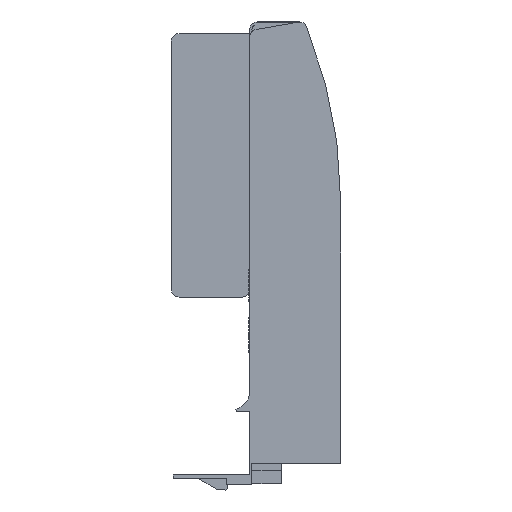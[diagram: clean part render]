
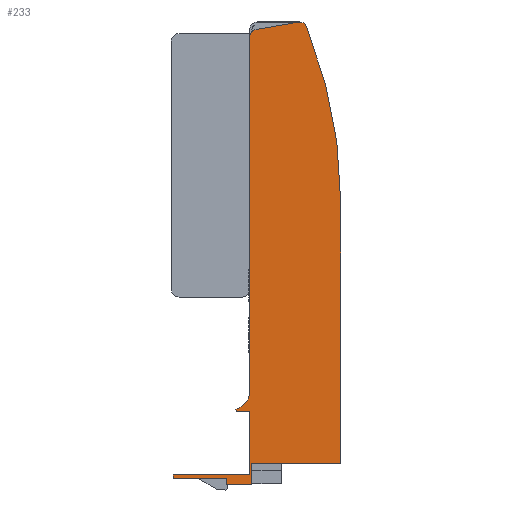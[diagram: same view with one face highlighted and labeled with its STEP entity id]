
A CAD part, front view. The second image highlights one B-rep face of the part: STEP entity #233.
In plain terms, the highlighted planar face has unit normal (0, -1, 0).
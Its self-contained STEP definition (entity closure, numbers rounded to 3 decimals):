
#64 = CARTESIAN_POINT ( 'NONE',  ( -20.9, 0., -13.5 ) ) ;
#65 = CARTESIAN_POINT ( 'NONE',  ( 2.3, 0., 55.168 ) ) ;
#69 = CARTESIAN_POINT ( 'NONE',  ( -41.499, 0., -17.528 ) ) ;
#76 = CARTESIAN_POINT ( 'NONE',  ( -6.648, 0., 100.756 ) ) ;
#80 = CARTESIAN_POINT ( 'NONE',  ( -25., 0., 0. ) ) ;
#112 = CARTESIAN_POINT ( 'NONE',  ( -25.161, 0., 0.578 ) ) ;
#115 = CARTESIAN_POINT ( 'NONE',  ( 2.3, 0., -13.5 ) ) ;
#119 = CARTESIAN_POINT ( 'NONE',  ( -27.599, 0., -19.1 ) ) ;
#127 = CARTESIAN_POINT ( 'NONE',  ( -20.9, 0., -19.1 ) ) ;
#129 = CARTESIAN_POINT ( 'NONE',  ( -21.5, 0., 5.395 ) ) ;
#145 = CARTESIAN_POINT ( 'NONE',  ( -19.847, 0., 100.03 ) ) ;
#151 = CARTESIAN_POINT ( 'NONE',  ( -27.599, 0., -17.528 ) ) ;
#158 = CARTESIAN_POINT ( 'NONE',  ( -21.5, 0., -16.5 ) ) ;
#170 = CARTESIAN_POINT ( 'NONE',  ( -41.499, 0., -16.5 ) ) ;
#190 = CARTESIAN_POINT ( 'NONE',  ( -21.5, 0., 98.06 ) ) ;
#199 = CARTESIAN_POINT ( 'NONE',  ( -8.847, 0., 101.97 ) ) ;
#209 = CARTESIAN_POINT ( 'NONE',  ( -21.5, 0., 0. ) ) ;
#233 = ADVANCED_FACE ( 'NONE', ( #1711 ), #1035, .F. ) ;
#432 = CARTESIAN_POINT ( 'NONE',  ( -8.5, 0., 100. ) ) ;
#433 = DIRECTION ( 'NONE',  ( 0., -1., 0. ) ) ;
#434 = DIRECTION ( 'NONE',  ( 1., 0., 0. ) ) ;
#478 = CARTESIAN_POINT ( 'NONE',  ( -41.499, 0., -16.5 ) ) ;
#483 = CARTESIAN_POINT ( 'NONE',  ( -26.5, 0., 5.395 ) ) ;
#484 = DIRECTION ( 'NONE',  ( 0., 0., -1. ) ) ;
#485 = DIRECTION ( 'NONE',  ( 0., 1., 0. ) ) ;
#486 = DIRECTION ( 'NONE',  ( 1., 0., 0. ) ) ;
#506 = CARTESIAN_POINT ( 'NONE',  ( -118.3, 0., 55.168 ) ) ;
#511 = CARTESIAN_POINT ( 'NONE',  ( -8.847, 0., 101.97 ) ) ;
#512 = DIRECTION ( 'NONE',  ( -0.985, 0., -0.174 ) ) ;
#516 = DIRECTION ( 'NONE',  ( 0., -1., 0. ) ) ;
#517 = DIRECTION ( 'NONE',  ( 1., 0., 0. ) ) ;
#522 = CARTESIAN_POINT ( 'NONE',  ( -25.161, 0., 0.578 ) ) ;
#526 = DIRECTION ( 'NONE',  ( 0.268, 0., -0.963 ) ) ;
#533 = CARTESIAN_POINT ( 'NONE',  ( -21.5, 0., 98.06 ) ) ;
#534 = DIRECTION ( 'NONE',  ( 0., 0., -1. ) ) ;
#535 = CARTESIAN_POINT ( 'NONE',  ( -27.599, 0., -19.1 ) ) ;
#536 = DIRECTION ( 'NONE',  ( 1., 0., 0. ) ) ;
#592 = CARTESIAN_POINT ( 'NONE',  ( -41.499, 0., -17.528 ) ) ;
#593 = DIRECTION ( 'NONE',  ( 1., 0., 0. ) ) ;
#650 = CARTESIAN_POINT ( 'NONE',  ( 2.3, 0., -13.5 ) ) ;
#654 = CARTESIAN_POINT ( 'NONE',  ( -19.5, 0., 98.06 ) ) ;
#658 = DIRECTION ( 'NONE',  ( 1., 0., 0. ) ) ;
#661 = CARTESIAN_POINT ( 'NONE',  ( -21.5, 0., 0. ) ) ;
#666 = DIRECTION ( 'NONE',  ( 0., -1., 0. ) ) ;
#667 = DIRECTION ( 'NONE',  ( 1., 0., 0. ) ) ;
#672 = DIRECTION ( 'NONE',  ( 0., 0., -1. ) ) ;
#686 = CARTESIAN_POINT ( 'NONE',  ( -20.9, 0., -19.1 ) ) ;
#687 = DIRECTION ( 'NONE',  ( 0., 0., 1. ) ) ;
#741 = CARTESIAN_POINT ( 'NONE',  ( -25., 0., 0. ) ) ;
#742 = DIRECTION ( 'NONE',  ( 1., 0., 0. ) ) ;
#743 = CARTESIAN_POINT ( 'NONE',  ( -27.599, 0., -17.528 ) ) ;
#744 = DIRECTION ( 'NONE',  ( 0., 0., -1. ) ) ;
#750 = CARTESIAN_POINT ( 'NONE',  ( -21.5, 0., -16.5 ) ) ;
#751 = DIRECTION ( 'NONE',  ( -1., 0., 0. ) ) ;
#820 = CARTESIAN_POINT ( 'NONE',  ( 2.3, 0., -13.5 ) ) ;
#821 = DIRECTION ( 'NONE',  ( 0., 0., 1. ) ) ;
#882 = VERTEX_POINT ( 'NONE', #190 ) ;
#883 = VERTEX_POINT ( 'NONE', #145 ) ;
#908 = VERTEX_POINT ( 'NONE', #158 ) ;
#909 = VERTEX_POINT ( 'NONE', #209 ) ;
#926 = VERTEX_POINT ( 'NONE', #115 ) ;
#927 = VERTEX_POINT ( 'NONE', #64 ) ;
#933 = VERTEX_POINT ( 'NONE', #127 ) ;
#941 = VERTEX_POINT ( 'NONE', #129 ) ;
#942 = VERTEX_POINT ( 'NONE', #112 ) ;
#943 = VERTEX_POINT ( 'NONE', #80 ) ;
#944 = VERTEX_POINT ( 'NONE', #170 ) ;
#945 = VERTEX_POINT ( 'NONE', #69 ) ;
#946 = VERTEX_POINT ( 'NONE', #151 ) ;
#947 = VERTEX_POINT ( 'NONE', #119 ) ;
#948 = VERTEX_POINT ( 'NONE', #65 ) ;
#949 = VERTEX_POINT ( 'NONE', #76 ) ;
#950 = VERTEX_POINT ( 'NONE', #199 ) ;
#1035 = PLANE ( 'NONE',  #2133 ) ;
#1038 = CARTESIAN_POINT ( 'NONE',  ( -8.75, 0., 61.5 ) ) ;
#1044 = DIRECTION ( 'NONE',  ( 0., 1., 0. ) ) ;
#1045 = DIRECTION ( 'NONE',  ( 0., 0., 1. ) ) ;
#1169 = VECTOR ( 'NONE', #536, 1000. ) ;
#1170 = LINE ( 'NONE', #535, #1169 ) ;
#1194 = VECTOR ( 'NONE', #534, 1000. ) ;
#1195 = LINE ( 'NONE', #533, #1194 ) ;
#1202 = VECTOR ( 'NONE', #526, 1000. ) ;
#1218 = LINE ( 'NONE', #650, #1253 ) ;
#1230 = LINE ( 'NONE', #478, #1290 ) ;
#1237 = VECTOR ( 'NONE', #512, 1000. ) ;
#1238 = LINE ( 'NONE', #511, #1237 ) ;
#1241 = LINE ( 'NONE', #522, #1202 ) ;
#1245 = VECTOR ( 'NONE', #751, 1000. ) ;
#1253 = VECTOR ( 'NONE', #658, 1000. ) ;
#1264 = VECTOR ( 'NONE', #687, 1000. ) ;
#1265 = LINE ( 'NONE', #686, #1264 ) ;
#1287 = VECTOR ( 'NONE', #744, 1000. ) ;
#1288 = CIRCLE ( 'NONE', #2052, 5. ) ;
#1290 = VECTOR ( 'NONE', #484, 1000. ) ;
#1293 = CIRCLE ( 'NONE', #2251, 120.6 ) ;
#1299 = VECTOR ( 'NONE', #593, 1000. ) ;
#1341 = LINE ( 'NONE', #592, #1299 ) ;
#1347 = LINE ( 'NONE', #661, #1414 ) ;
#1349 = CIRCLE ( 'NONE', #2187, 2. ) ;
#1356 = LINE ( 'NONE', #741, #1471 ) ;
#1360 = CIRCLE ( 'NONE', #2106, 2. ) ;
#1365 = LINE ( 'NONE', #743, #1287 ) ;
#1414 = VECTOR ( 'NONE', #672, 1000. ) ;
#1465 = LINE ( 'NONE', #750, #1245 ) ;
#1471 = VECTOR ( 'NONE', #742, 1000. ) ;
#1496 = ORIENTED_EDGE ( 'NONE', *, *, #2125, .T. ) ;
#1505 = ORIENTED_EDGE ( 'NONE', *, *, #2181, .T. ) ;
#1508 = ORIENTED_EDGE ( 'NONE', *, *, #2354, .T. ) ;
#1525 = ORIENTED_EDGE ( 'NONE', *, *, #2294, .T. ) ;
#1534 = ORIENTED_EDGE ( 'NONE', *, *, #2093, .T. ) ;
#1560 = ORIENTED_EDGE ( 'NONE', *, *, #2062, .T. ) ;
#1562 = ORIENTED_EDGE ( 'NONE', *, *, #2297, .T. ) ;
#1568 = ORIENTED_EDGE ( 'NONE', *, *, #2220, .T. ) ;
#1569 = ORIENTED_EDGE ( 'NONE', *, *, #2129, .T. ) ;
#1600 = EDGE_LOOP ( 'NONE', ( #1569, #1534, #1496, #1678, #1890, #1562, #1866, #1505, #1525, #1631, #1642, #1568, #1508, #1645, #1560, #1942, #1852 ) ) ;
#1631 = ORIENTED_EDGE ( 'NONE', *, *, #2130, .T. ) ;
#1642 = ORIENTED_EDGE ( 'NONE', *, *, #2247, .T. ) ;
#1645 = ORIENTED_EDGE ( 'NONE', *, *, #2121, .T. ) ;
#1678 = ORIENTED_EDGE ( 'NONE', *, *, #2293, .T. ) ;
#1711 = FACE_OUTER_BOUND ( 'NONE', #1600, .T. ) ;
#1852 = ORIENTED_EDGE ( 'NONE', *, *, #2232, .T. ) ;
#1866 = ORIENTED_EDGE ( 'NONE', *, *, #2092, .T. ) ;
#1890 = ORIENTED_EDGE ( 'NONE', *, *, #2236, .T. ) ;
#1942 = ORIENTED_EDGE ( 'NONE', *, *, #2118, .T. ) ;
#1997 = LINE ( 'NONE', #820, #2000 ) ;
#2000 = VECTOR ( 'NONE', #821, 1000. ) ;
#2052 = AXIS2_PLACEMENT_3D ( 'NONE', #483, #485, #486 ) ;
#2062 = EDGE_CURVE ( 'NONE', #949, #950, #1360, .T. ) ;
#2092 = EDGE_CURVE ( 'NONE', #944, #945, #1230, .T. ) ;
#2093 = EDGE_CURVE ( 'NONE', #941, #942, #1288, .T. ) ;
#2106 = AXIS2_PLACEMENT_3D ( 'NONE', #432, #433, #434 ) ;
#2118 = EDGE_CURVE ( 'NONE', #950, #883, #1238, .T. ) ;
#2121 = EDGE_CURVE ( 'NONE', #948, #949, #1293, .T. ) ;
#2125 = EDGE_CURVE ( 'NONE', #942, #943, #1241, .T. ) ;
#2129 = EDGE_CURVE ( 'NONE', #882, #941, #1195, .T. ) ;
#2130 = EDGE_CURVE ( 'NONE', #947, #933, #1170, .T. ) ;
#2133 = AXIS2_PLACEMENT_3D ( 'NONE', #1038, #1044, #1045 ) ;
#2181 = EDGE_CURVE ( 'NONE', #945, #946, #1341, .T. ) ;
#2187 = AXIS2_PLACEMENT_3D ( 'NONE', #654, #666, #667 ) ;
#2220 = EDGE_CURVE ( 'NONE', #927, #926, #1218, .T. ) ;
#2232 = EDGE_CURVE ( 'NONE', #883, #882, #1349, .T. ) ;
#2236 = EDGE_CURVE ( 'NONE', #909, #908, #1347, .T. ) ;
#2247 = EDGE_CURVE ( 'NONE', #933, #927, #1265, .T. ) ;
#2251 = AXIS2_PLACEMENT_3D ( 'NONE', #506, #516, #517 ) ;
#2293 = EDGE_CURVE ( 'NONE', #943, #909, #1356, .T. ) ;
#2294 = EDGE_CURVE ( 'NONE', #946, #947, #1365, .T. ) ;
#2297 = EDGE_CURVE ( 'NONE', #908, #944, #1465, .T. ) ;
#2354 = EDGE_CURVE ( 'NONE', #926, #948, #1997, .T. ) ;
